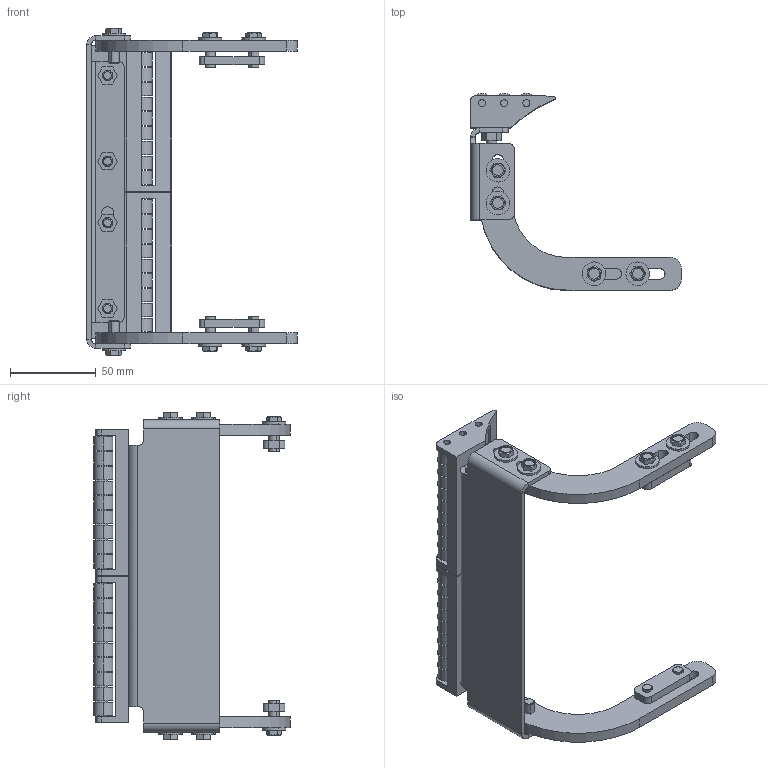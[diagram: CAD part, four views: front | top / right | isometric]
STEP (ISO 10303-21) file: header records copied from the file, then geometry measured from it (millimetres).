
FILE_DESCRIPTION((''),'2;1');
FILE_NAME('518355-06_ASM','2023-03-23T',('jenni.wallner'),(''),'PRO/ENGINEER BY PARAMETRIC TECHNOLOGY CORPORATION, 2012420','PRO/ENGINEER BY PARAMETRIC TECHNOLOGY CORPORATION, 2012420','');
FILE_SCHEMA(('CONFIG_CONTROL_DESIGN'));
Length unit declared in the file: inch
Products named in the file (37): 960616MSSF; 532387; 807-1829_2-1-SOLID1; 807-1829_20-1-SOLID1; 807-1829-1-SOLID1; 807-1829_11-1-SOLID1; 807-1829_4-1-SOLID1; 807-1829_8-1-SOLID1; 807-1829_18-1-SOLID1; 807-1829_25-1-SOLID1; 807-1829_19-1-SOLID1; 807-1829_14-1-SOLID1; 807-1829_16-1-SOLID1; 807-1829_26-1-SOLID1; 807-1829_1-1-SOLID1; 807-1829_12-1-SOLID1; 807-1829_27-1-SOLID1; 807-1829_9-1-SOLID1; CUT-EXTRUDE1_2_; 807-1829_10-1-SOLID1; 807-1829_7-1-SOLID1; 807-1829_5-1-SOLID1; 807-1829_3-1-SOLID1; 807-1829_21-1-SOLID1; CUT-EXTRUDE1_1_; 807-1829_23-1-SOLID1; 807-1829_24-1-SOLID1; 807-1829_6-1-SOLID1; CUT-EXTRUDE1_3_; 807-1829_13-1-SOLID1; 807-1829_15-1-SOLID1; 807-1829_17-1-SOLID1; 807-1829_ASM; 520309; 518353-WW_518353-06; ASM0001_ASM; 518355-06_ASM
Assembly tree (46 placements, depth 4):
  518355-06_ASM
    ASM0001_ASM
      960616MSSF  x8
      532387  x2
      807-1829_ASM  x2
        807-1829_2-1-SOLID1
        807-1829_20-1-SOLID1
        807-1829-1-SOLID1
        807-1829_11-1-SOLID1
        807-1829_4-1-SOLID1
        807-1829_8-1-SOLID1
        807-1829_18-1-SOLID1
        807-1829_25-1-SOLID1
        807-1829_19-1-SOLID1
        807-1829_14-1-SOLID1
        807-1829_16-1-SOLID1
        807-1829_26-1-SOLID1
        807-1829_1-1-SOLID1
        807-1829_12-1-SOLID1
        807-1829_27-1-SOLID1
        807-1829_9-1-SOLID1
        CUT-EXTRUDE1_2_
        807-1829_10-1-SOLID1
        807-1829_7-1-SOLID1
        807-1829_5-1-SOLID1
        807-1829_3-1-SOLID1
        807-1829_21-1-SOLID1
        CUT-EXTRUDE1_1_
        807-1829_23-1-SOLID1
        807-1829_24-1-SOLID1
        807-1829_6-1-SOLID1
        CUT-EXTRUDE1_3_
        807-1829_13-1-SOLID1
        807-1829_15-1-SOLID1
        807-1829_17-1-SOLID1
      520309  x2
      518353-WW_518353-06
Bounding box: 122.82 x 114.68 x 190.92 mm (x, y, z)
Volume: 170270 mm3; surface area: 105503.8 mm2
Topology: 73 solids, 73 shells, 673 faces, 1444 edges, 947 vertices
Faces by surface type: plane 336, cylinder 297, cone 40
Entity records: 9826 total; most frequent: DIRECTION 1857, CARTESIAN_POINT 1616, ORIENTED_EDGE 1358, AXIS2_PLACEMENT_3D 749, EDGE_CURVE 679, VERTEX_POINT 446, VECTOR 359, LINE 359
